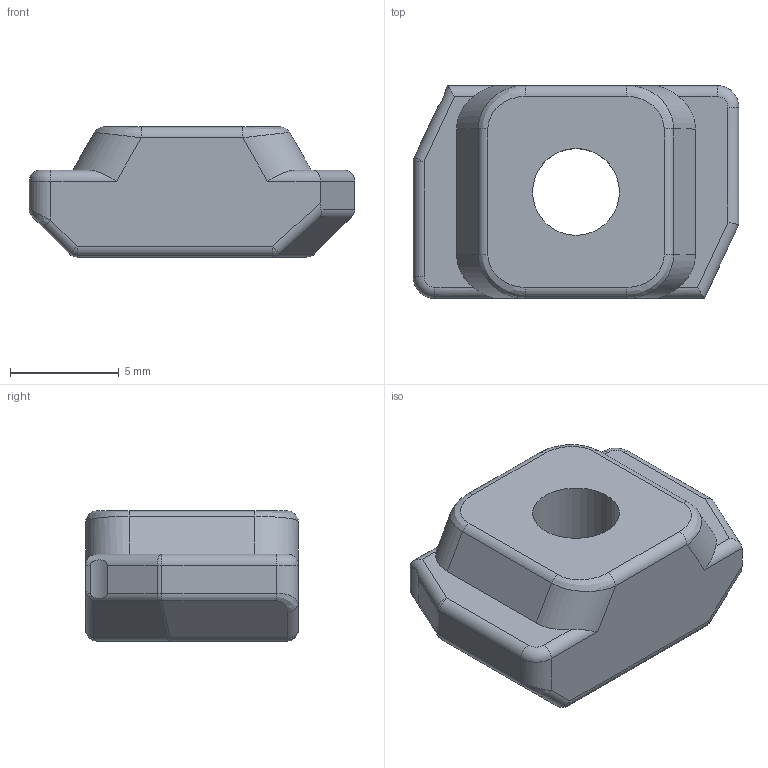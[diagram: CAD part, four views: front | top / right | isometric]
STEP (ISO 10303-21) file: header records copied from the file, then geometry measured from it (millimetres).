
FILE_DESCRIPTION(('STEP AP214'),'1');
FILE_NAME('ND40-M4.stp','2021-06-17T11:13:00',(' '),(' '),'Spatial InterOp 3D',' ',' ');
FILE_SCHEMA(('AUTOMOTIVE_DESIGN { 1 0 10303 214 1 1 1 1 }'));
Length unit declared in the file: millimetre
Products named in the file (1): ND40-M4
Bounding box: 15 x 9.8 x 6 mm (x, y, z)
Volume: 630.4 mm3; surface area: 524.4 mm2
Topology: 1 solids, 1 shells, 72 faces, 170 edges, 92 vertices
Faces by surface type: cylinder 38, plane 17, sphere 9, bspline 6, torus 2
Full cylindrical faces by diameter (mm): 4 x1
Entity records: 2904 total; most frequent: CARTESIAN_POINT 698, DIRECTION 364, ORIENTED_EDGE 322, EDGE_CURVE 161, AXIS2_PLACEMENT_3D 142, VERTEX_POINT 92, LINE 80, VECTOR 80
